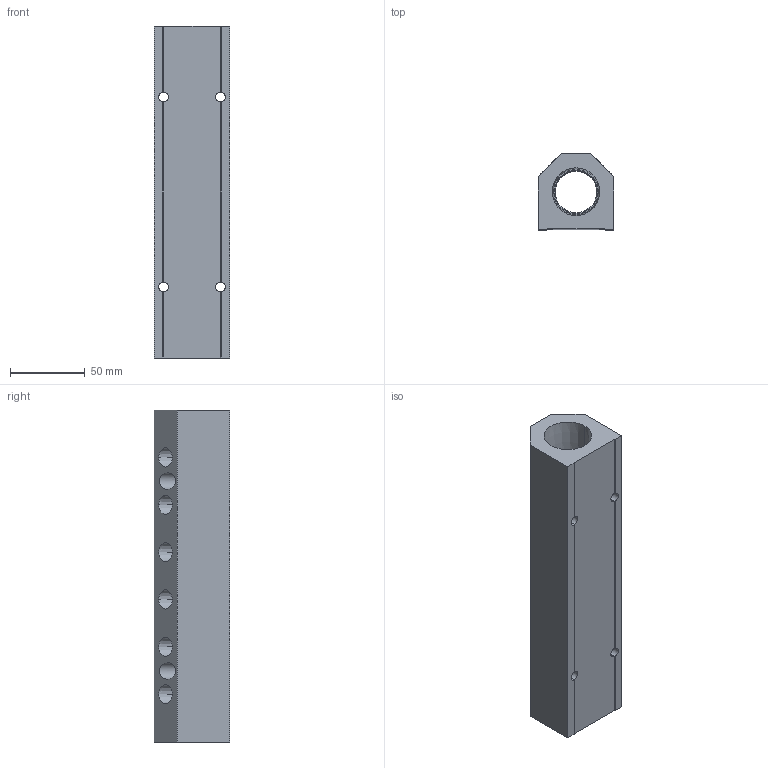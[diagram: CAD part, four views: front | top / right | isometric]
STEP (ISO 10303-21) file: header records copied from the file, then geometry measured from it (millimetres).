
FILE_DESCRIPTION (( 'STEP AP214' ), '1' );
FILE_NAME ('ALM6BD-N4N16-222R.STEP', '2023-11-02T06:50:51', ( '' ), ( '' ), 'SwSTEP 2.0', 'SolidWorks 2020', '' );
FILE_SCHEMA (( 'AUTOMOTIVE_DESIGN' ));
Length unit declared in the file: millimetre
Products named in the file (1): ALM6BD-N4N16-222R
Bounding box: 50.8 x 50.8 x 222 mm (x, y, z)
Volume: 347706.9 mm3; surface area: 70412.2 mm2
Topology: 1 solids, 1 shells, 323 faces, 848 edges, 560 vertices
Faces by surface type: plane 210, bspline 59, cone 32, cylinder 22
Entity records: 17622 total; most frequent: CARTESIAN_POINT 7053, ORIENTED_EDGE 1696, DIRECTION 1288, EDGE_CURVE 848, LINE 622, VECTOR 622, VERTEX_POINT 560, EDGE_LOOP 390
